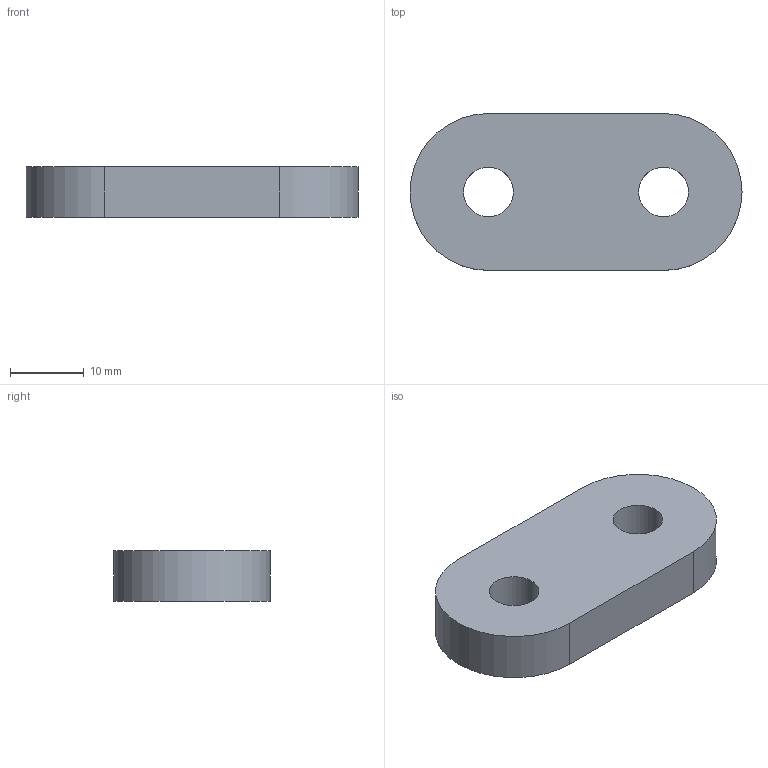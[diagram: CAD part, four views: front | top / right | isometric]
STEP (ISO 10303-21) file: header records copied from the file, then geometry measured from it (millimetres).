
FILE_DESCRIPTION (( 'STEP AP214' ), '1' );
FILE_NAME ('DRP-002-0536-00.STEP', '2013-12-20T17:38:40', ( 'ydmin' ), ( 'Microsoft' ), 'SwSTEP 2.0', 'SolidWorks 2013', '' );
FILE_SCHEMA (( 'AUTOMOTIVE_DESIGN' ));
Length unit declared in the file: inch
Products named in the file (1): DRP-002-0536-00
Bounding box: 45.15 x 21.34 x 6.86 mm (x, y, z)
Volume: 5444.5 mm3; surface area: 2665.2 mm2
Topology: 1 solids, 1 shells, 11 faces, 27 edges, 18 vertices
Faces by surface type: cylinder 7, plane 4
Entity records: 526 total; most frequent: DIRECTION 65, CARTESIAN_POINT 57, ORIENTED_EDGE 54, EDGE_CURVE 27, AXIS2_PLACEMENT_3D 26, VERTEX_POINT 18, EDGE_LOOP 15, LENGTH_MEASURE_WITH_UNIT 14
